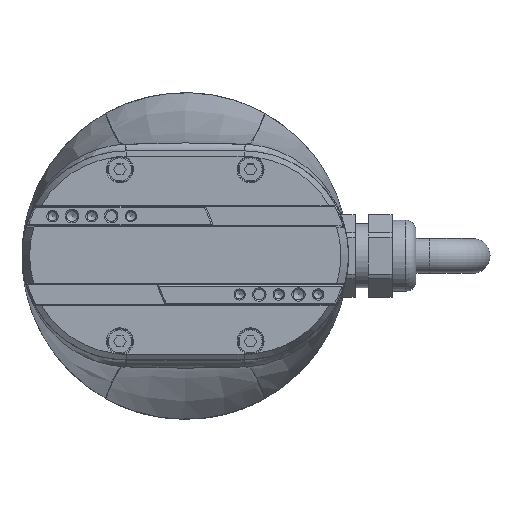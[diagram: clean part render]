
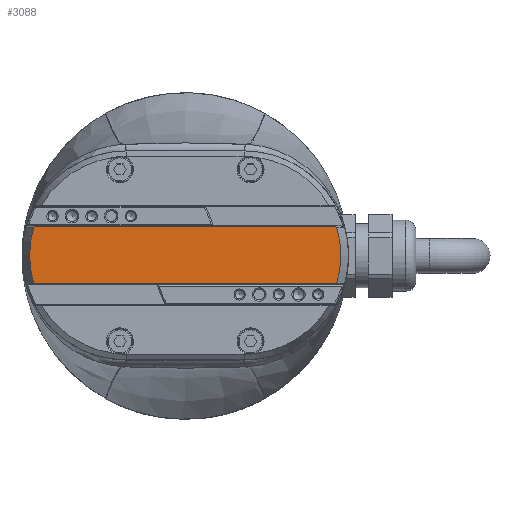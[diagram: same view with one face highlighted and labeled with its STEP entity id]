
A CAD part, top view. The second image highlights one B-rep face of the part: STEP entity #3088.
In plain terms, the highlighted planar face has unit normal (0, 0, 1).
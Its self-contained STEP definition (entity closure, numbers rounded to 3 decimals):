
#83 = CARTESIAN_POINT ( 'NONE',  ( 13.5, 0., 13.5 ) ) ;
#84 = B_SPLINE_CURVE_WITH_KNOTS ( 'NONE', 3,
 ( #31963, #13975, #11487, #29505 ),
 .UNSPECIFIED., .F., .F.,
 ( 4, 4 ),
 ( 0., 1. ),
 .UNSPECIFIED. ) ;
#1136 = CARTESIAN_POINT ( 'NONE',  ( -34.792, 6.459, 13.5 ) ) ;
#1356 = VERTEX_POINT ( 'NONE', #24450 ) ;
#1838 = LINE ( 'NONE', #25902, #28434 ) ;
#1957 = VERTEX_POINT ( 'NONE', #3465 ) ;
#2080 = VERTEX_POINT ( 'NONE', #15286 ) ;
#2269 = DIRECTION ( 'NONE',  ( 1., 0., 0. ) ) ;
#2689 = DIRECTION ( 'NONE',  ( 1., 0., 0. ) ) ;
#3088 = ADVANCED_FACE ( 'NONE', ( #24253 ), #26039, .T. ) ;
#3127 = CARTESIAN_POINT ( 'NONE',  ( -34.792, -6.459, 13.5 ) ) ;
#3234 = CARTESIAN_POINT ( 'NONE',  ( -34.614, -6.55, 13.5 ) ) ;
#3465 = CARTESIAN_POINT ( 'NONE',  ( -34.792, -6.459, 13.5 ) ) ;
#4314 = CARTESIAN_POINT ( 'NONE',  ( 34.614, 6.55, 13.5 ) ) ;
#5257 = CARTESIAN_POINT ( 'NONE',  ( 34.792, 6.459, 13.5 ) ) ;
#5476 = EDGE_LOOP ( 'NONE', ( #16572, #16763, #20819, #17352, #26505, #17863, #28183, #26836 ) ) ;
#5564 = EDGE_CURVE ( 'NONE', #1957, #31863, #5853, .T. ) ;
#5792 = VERTEX_POINT ( 'NONE', #4314 ) ;
#5853 = CIRCLE ( 'NONE', #5963, 22.25 ) ;
#5963 = AXIS2_PLACEMENT_3D ( 'NONE', #8072, #26114, #10664 ) ;
#6164 = CARTESIAN_POINT ( 'NONE',  ( -34.673, 6.52, 13.5 ) ) ;
#6980 = CIRCLE ( 'NONE', #23020, 22.25 ) ;
#7065 = EDGE_CURVE ( 'NONE', #8436, #2080, #6980, .T. ) ;
#7394 = CARTESIAN_POINT ( 'NONE',  ( -34.792, 6.459, 13.5 ) ) ;
#8072 = CARTESIAN_POINT ( 'NONE',  ( -13.5, 0., 13.5 ) ) ;
#8436 = VERTEX_POINT ( 'NONE', #5257 ) ;
#10436 = DIRECTION ( 'NONE',  ( -1., 0., 0. ) ) ;
#10574 = DIRECTION ( 'NONE',  ( 0., 0., 1. ) ) ;
#10664 = DIRECTION ( 'NONE',  ( 1., 0., 0. ) ) ;
#11329 = CARTESIAN_POINT ( 'NONE',  ( -34.614, 6.55, 13.5 ) ) ;
#11487 = CARTESIAN_POINT ( 'NONE',  ( 34.733, -6.49, 13.5 ) ) ;
#13365 = CARTESIAN_POINT ( 'NONE',  ( -34.733, -6.49, 13.5 ) ) ;
#13552 = EDGE_CURVE ( 'NONE', #5792, #1356, #1838, .T. ) ;
#13975 = CARTESIAN_POINT ( 'NONE',  ( 34.673, -6.52, 13.5 ) ) ;
#14612 = CARTESIAN_POINT ( 'NONE',  ( 34.673, 6.52, 13.5 ) ) ;
#15286 = CARTESIAN_POINT ( 'NONE',  ( 34.792, -6.459, 13.5 ) ) ;
#16065 = AXIS2_PLACEMENT_3D ( 'NONE', #28507, #10574, #28615 ) ;
#16126 = B_SPLINE_CURVE_WITH_KNOTS ( 'NONE', 3,
 ( #3127, #13365, #18645, #3234 ),
 .UNSPECIFIED., .F., .F.,
 ( 4, 4 ),
 ( 0., 1. ),
 .UNSPECIFIED. ) ;
#16518 = CARTESIAN_POINT ( 'NONE',  ( -34.733, 6.49, 13.5 ) ) ;
#16572 = ORIENTED_EDGE ( 'NONE', *, *, #30613, .T. ) ;
#16763 = ORIENTED_EDGE ( 'NONE', *, *, #26956, .T. ) ;
#17118 = EDGE_CURVE ( 'NONE', #8436, #5792, #22749, .T. ) ;
#17352 = ORIENTED_EDGE ( 'NONE', *, *, #17118, .T. ) ;
#17645 = CARTESIAN_POINT ( 'NONE',  ( 34.701, -6.55, 13.5 ) ) ;
#17863 = ORIENTED_EDGE ( 'NONE', *, *, #25344, .T. ) ;
#18073 = DIRECTION ( 'NONE',  ( 0., 0., -1. ) ) ;
#18645 = CARTESIAN_POINT ( 'NONE',  ( -34.673, -6.52, 13.5 ) ) ;
#18723 = EDGE_CURVE ( 'NONE', #1957, #21103, #16126, .T. ) ;
#20819 = ORIENTED_EDGE ( 'NONE', *, *, #7065, .F. ) ;
#21103 = VERTEX_POINT ( 'NONE', #31995 ) ;
#22749 = B_SPLINE_CURVE_WITH_KNOTS ( 'NONE', 3,
 ( #24881, #30027, #14612, #32583 ),
 .UNSPECIFIED., .F., .F.,
 ( 4, 4 ),
 ( 0., 1. ),
 .UNSPECIFIED. ) ;
#23020 = AXIS2_PLACEMENT_3D ( 'NONE', #83, #18073, #2689 ) ;
#24253 = FACE_OUTER_BOUND ( 'NONE', #5476, .T. ) ;
#24450 = CARTESIAN_POINT ( 'NONE',  ( -34.614, 6.55, 13.5 ) ) ;
#24881 = CARTESIAN_POINT ( 'NONE',  ( 34.792, 6.459, 13.5 ) ) ;
#25344 = EDGE_CURVE ( 'NONE', #1356, #31863, #31402, .T. ) ;
#25348 = VERTEX_POINT ( 'NONE', #29360 ) ;
#25902 = CARTESIAN_POINT ( 'NONE',  ( -34.701, 6.55, 13.5 ) ) ;
#26039 = PLANE ( 'NONE',  #16065 ) ;
#26114 = DIRECTION ( 'NONE',  ( 0., 0., -1. ) ) ;
#26505 = ORIENTED_EDGE ( 'NONE', *, *, #13552, .T. ) ;
#26836 = ORIENTED_EDGE ( 'NONE', *, *, #18723, .T. ) ;
#26956 = EDGE_CURVE ( 'NONE', #25348, #2080, #84, .T. ) ;
#28183 = ORIENTED_EDGE ( 'NONE', *, *, #5564, .F. ) ;
#28434 = VECTOR ( 'NONE', #10436, 1000. ) ;
#28507 = CARTESIAN_POINT ( 'NONE',  ( 0., 0., 13.5 ) ) ;
#28615 = DIRECTION ( 'NONE',  ( 1., 0., 0. ) ) ;
#29360 = CARTESIAN_POINT ( 'NONE',  ( 34.614, -6.55, 13.5 ) ) ;
#29505 = CARTESIAN_POINT ( 'NONE',  ( 34.792, -6.459, 13.5 ) ) ;
#30027 = CARTESIAN_POINT ( 'NONE',  ( 34.733, 6.49, 13.5 ) ) ;
#30258 = LINE ( 'NONE', #17645, #31861 ) ;
#30613 = EDGE_CURVE ( 'NONE', #21103, #25348, #30258, .T. ) ;
#31402 = B_SPLINE_CURVE_WITH_KNOTS ( 'NONE', 3,
 ( #11329, #6164, #16518, #1136 ),
 .UNSPECIFIED., .F., .F.,
 ( 4, 4 ),
 ( 0., 1. ),
 .UNSPECIFIED. ) ;
#31861 = VECTOR ( 'NONE', #2269, 1000. ) ;
#31863 = VERTEX_POINT ( 'NONE', #7394 ) ;
#31963 = CARTESIAN_POINT ( 'NONE',  ( 34.614, -6.55, 13.5 ) ) ;
#31995 = CARTESIAN_POINT ( 'NONE',  ( -34.614, -6.55, 13.5 ) ) ;
#32583 = CARTESIAN_POINT ( 'NONE',  ( 34.614, 6.55, 13.5 ) ) ;
